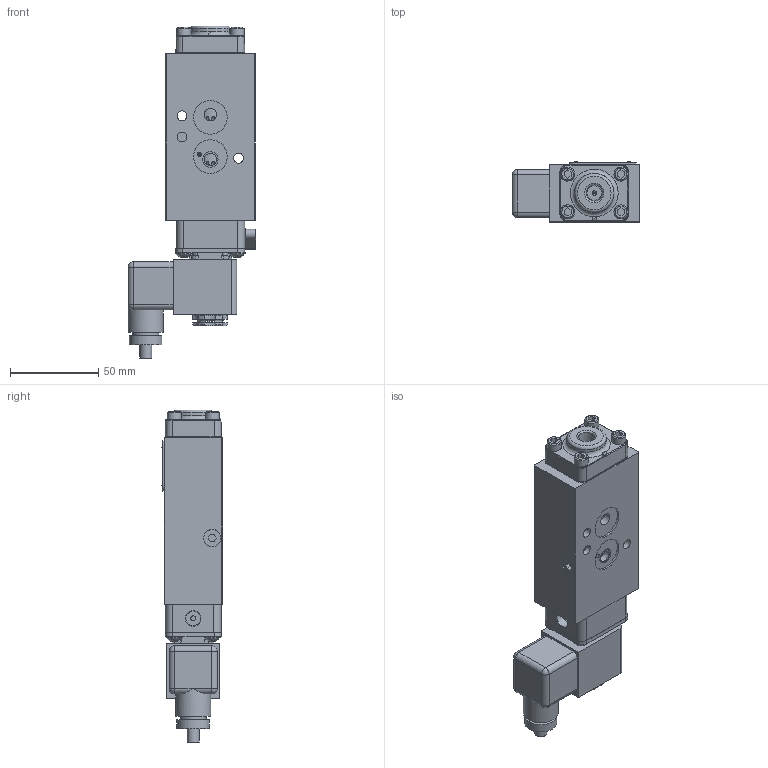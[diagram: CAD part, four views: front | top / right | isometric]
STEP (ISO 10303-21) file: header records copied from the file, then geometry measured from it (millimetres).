
FILE_DESCRIPTION(/* description */ (''),/* implementation_level */ '2;1');
FILE_NAME(/* name */ 'NSR2TOCZ.stp',/* time_stamp */ '2026-09-24T15:45:22-04:00',/* author */ ('rmckenna'),/* organization */ (''),/* preprocessor_version */ 'ST-DEVELOPER v20.2',/* originating_system */ 'Autodesk Inventor 2027',/* authorisation */ '');
FILE_SCHEMA (('AUTOMOTIVE_DESIGN { 1 0 10303 214 3 1 1 }'));
Products named in the file (1): Part61
Bounding box: 72.24 x 34.06 x 187.79 mm (x, y, z)
Volume: 221363.3 mm3; surface area: 70302.7 mm2
Topology: 2 solids, 32 shells, 1580 faces, 3810 edges, 2416 vertices
Faces by surface type: plane 677, cylinder 417, cone 259, torus 121, bspline 95, sphere 11
Full cylindrical faces by diameter (mm): 1.016 x1, 1.168 x10, 1.3 x1, 1.397 x1, 1.5 x1, 2.032 x8, 2.07 x2, 2.261 x2, 2.35 x4, 2.362 x2, 2.381 x2, 2.388 x2, 2.5 x1, 2.778 x2, 2.8 x1, 3 x4, 3.048 x1, 3.175 x2, 3.4 x1, 3.683 x9, 4.191 x2, 4.826 x8, 5.15 x4, 5.156 x8, 5.5 x1, 5.512 x1, 5.556 x2, 6.65 x1, 6.731 x2, 7.087 x1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
Entity records: 52300 total; most frequent: CARTESIAN_POINT 13797, DIRECTION 7650, ORIENTED_EDGE 7572, EDGE_CURVE 3786, AXIS2_PLACEMENT_3D 2909, VERTEX_POINT 2415, LINE 1832, VECTOR 1832
